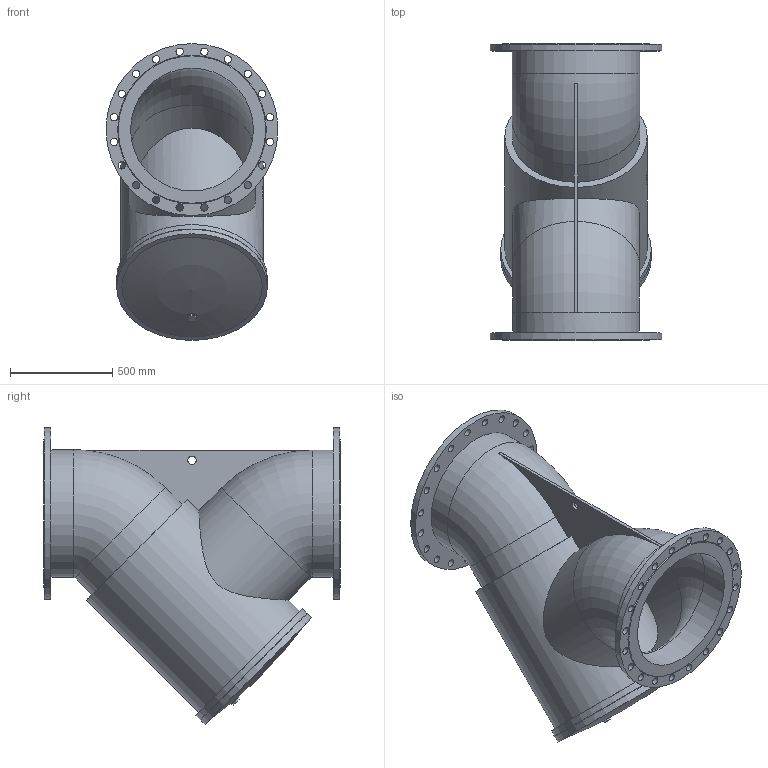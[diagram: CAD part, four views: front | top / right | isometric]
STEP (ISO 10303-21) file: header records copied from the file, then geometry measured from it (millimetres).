
FILE_DESCRIPTION(('STEP AP203'), '1');
FILE_NAME('Ôèëüòð ñåò÷àòûé ôëàíöåâûé 021Y DN600 PN16', '', ('UNSPECIFIED'), ('UNSPECIFIED'), 'ASCON STEP Converter 1.6', 'ASCON Math Kernel', '');
FILE_SCHEMA(('CONFIG_CONTROL_DESIGN'));
Length unit declared in the file: millimetre
Bounding box: 840 x 1450 x 1450 mm (x, y, z)
Volume: 368043909.5 mm3; surface area: 8443383.6 mm2
Topology: 1 solids, 1 shells, 106 faces, 263 edges, 172 vertices
Faces by surface type: cylinder 64, plane 35, torus 4, cone 2, sphere 1
Full cylindrical faces by diameter (mm): 36 x40, 40 x1, 45 x1, 600 x4, 620 x1, 624 x1, 696 x1, 724 x1, 736 x2, 840 x2
Entity records: 5163 total; most frequent: CARTESIAN_POINT 1739, DIRECTION 531, ORIENTED_EDGE 402, EDGE_LOOP 262, AXIS2_PLACEMENT_3D 238, EDGE_CURVE 201, VERTEX_POINT 171, FACE_BOUND 147
